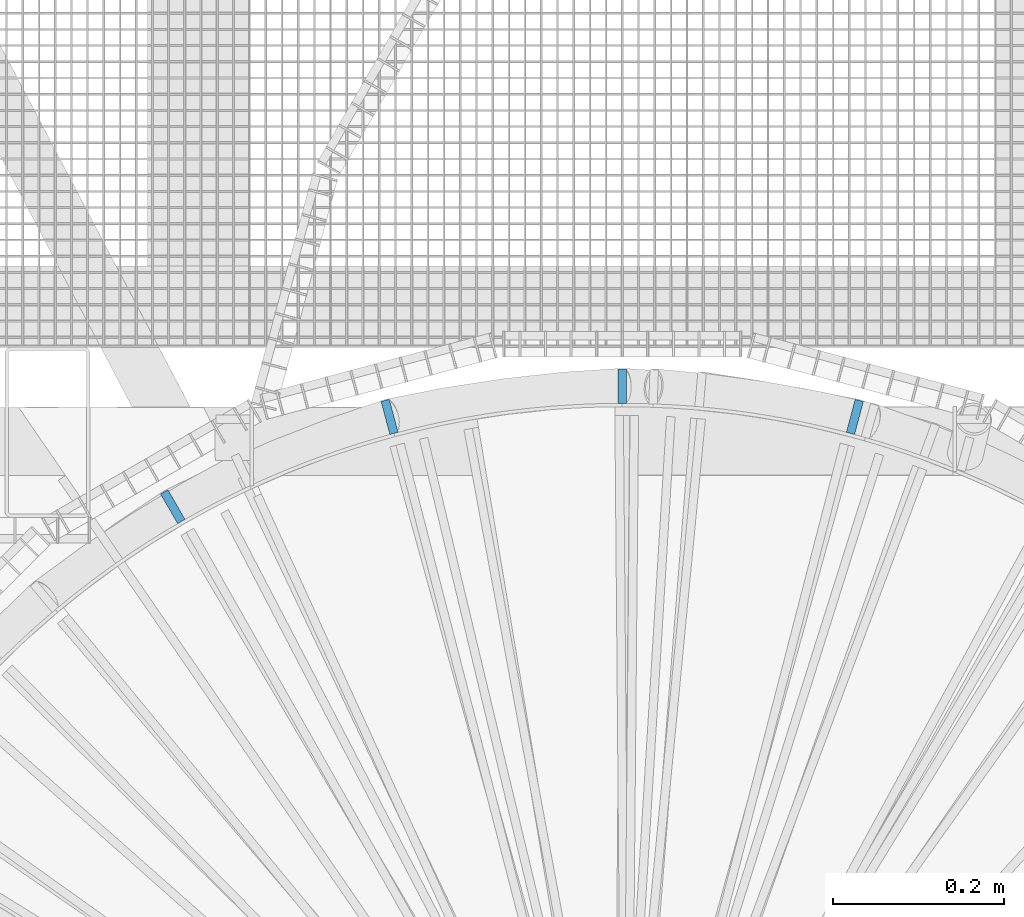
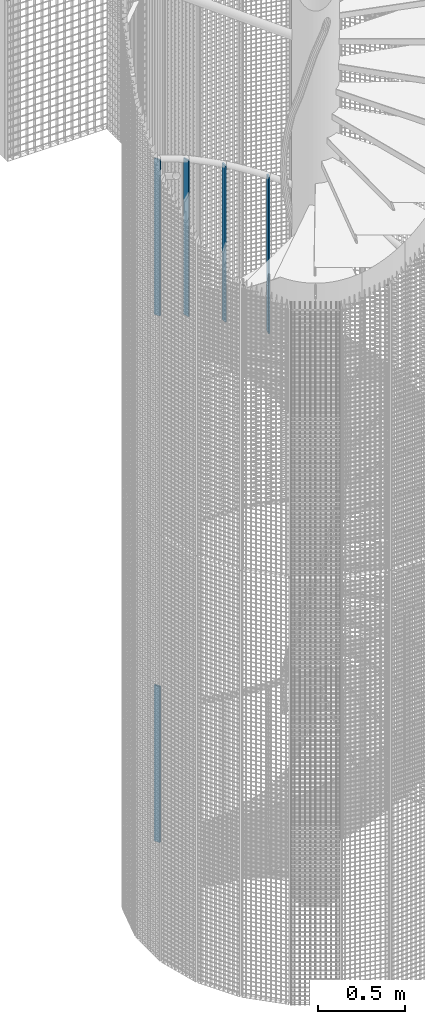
# One storey, part 26 of 1183: 5 columns, 5 elements without a shape of their own.
"""IFC2X3 building model written with IfcOpenShell, lengths in millimetres."""

from ifc_helpers import new_model, si_unit, frame, origin_with_axes, origin_2d_with_axis, place, context, subcontext, project, spatial, rectangle, extrude, material, type_object, element, aggregate, save


model = new_model("IFC2X3")

# Units and contexts
model_context = context("Model", 3, precision=1e-05, world=origin_with_axes())
body_context = subcontext(model_context, "Body", "Model", "MODEL_VIEW")
ifc_project = project(units=[si_unit("LENGTHUNIT", "METRE", prefix="MILLI"), si_unit("AREAUNIT", "SQUARE_METRE"), si_unit("VOLUMEUNIT", "CUBIC_METRE"), si_unit("MASSUNIT", "GRAM", prefix="KILO"), si_unit("TIMEUNIT", "SECOND"), si_unit("PLANEANGLEUNIT", "RADIAN"), si_unit("SOLIDANGLEUNIT", "STERADIAN"), si_unit("THERMODYNAMICTEMPERATUREUNIT", "DEGREE_CELSIUS"), si_unit("LUMINOUSINTENSITYUNIT", "LUMEN")], contexts=[model_context])

# Site, building, storey
site_placement = place(None, origin_with_axes())
site = spatial("IfcSite", under=ifc_project, at=site_placement, Name="Undefined", CompositionType="ELEMENT")
building_placement = place(site_placement, origin_with_axes())
building = spatial("IfcBuilding", under=site, at=building_placement, Name="Undefined", CompositionType="ELEMENT")
storey_placement = place(building_placement, origin_with_axes())
storey = spatial("IfcBuildingStorey", under=building, at=storey_placement, Name="Undefined", CompositionType="ELEMENT", Elevation=0.0)

# Assembly, column
assembly_1_placement = place(storey_placement, origin_with_axes())
assembly_1 = element("IfcElementAssembly", 1, at=assembly_1_placement, inside=storey, Name="MONTANT", AssemblyPlace="NOTDEFINED", PredefinedType="NOTDEFINED")
ifc_material = material(Name="STEEL/S235JR")
column_type = type_object("IfcColumnType", Name="PL10*40", PredefinedType="NOTDEFINED")
column_1_placement = place(assembly_1_placement, frame((272.795273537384, 1018.08582090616, 3244.92), z_axis=(0.0, 0.0, 1.0), x_axis=(-0.258819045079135, -0.965925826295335, 0.0)))
column_1 = element("IfcColumn", 2, at=column_1_placement, type_object=column_type, material=ifc_material, Name="MONTANT", context=body_context, shape_type="SweptSolid", body=[
    extrude(rectangle(XDim=10.0, YDim=40.0, at=origin_2d_with_axis()), frame((0.0, 0.0, 1100.0), z_axis=(0.0, 0.0, -1.0), x_axis=(0.0, 1.0, 0.0)), (0.0, 0.0, 1.0), 1100.0),
])
aggregate(assembly_1, [column_1])

assembly_2_placement = place(storey_placement, origin_with_axes())
assembly_2 = element("IfcElementAssembly", 3, at=assembly_2_placement, inside=storey, Name="MONTANT", AssemblyPlace="NOTDEFINED", PredefinedType="NOTDEFINED")
column_2_placement = place(assembly_2_placement, frame((-272.795273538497, 1018.08582091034, 3553.96), z_axis=(0.0, 0.0, 1.0), x_axis=(0.258819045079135, -0.965925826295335, 0.0)))
column_2 = element("IfcColumn", 4, at=column_2_placement, type_object=column_type, material=ifc_material, Name="MONTANT", context=body_context, shape_type="SweptSolid", body=[
    extrude(rectangle(XDim=10.0, YDim=40.0, at=origin_2d_with_axis()), frame((0.0, 0.0, 1100.0), z_axis=(0.0, 0.0, -1.0), x_axis=(0.0, 1.0, 0.0)), (0.0, 0.0, 1.0), 1100.0),
])
aggregate(assembly_2, [column_2])

assembly_3_placement = place(storey_placement, origin_with_axes())
assembly_3 = element("IfcElementAssembly", 5, at=assembly_3_placement, inside=storey, Name="MONTANT", AssemblyPlace="NOTDEFINED", PredefinedType="NOTDEFINED")
column_3_placement = place(assembly_3_placement, frame((2.72848410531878e-12, 1054.00000000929, 3399.44), z_axis=(0.0, 0.0, 1.0), x_axis=(0.0, -1.0, 0.0)))
column_3 = element("IfcColumn", 6, at=column_3_placement, type_object=column_type, material=ifc_material, Name="MONTANT", context=body_context, shape_type="SweptSolid", body=[
    extrude(rectangle(XDim=10.0, YDim=40.0, at=origin_2d_with_axis()), frame((0.0, 0.0, 1100.0), z_axis=(0.0, 0.0, -1.0), x_axis=(0.0, 1.0, 0.0)), (0.0, 0.0, 1.0), 1100.0),
])
aggregate(assembly_3, [column_3])

assembly_4_placement = place(storey_placement, origin_with_axes())
assembly_4 = element("IfcElementAssembly", 7, at=assembly_4_placement, inside=storey, Name="MONTANT", AssemblyPlace="NOTDEFINED", PredefinedType="NOTDEFINED")
column_4_placement = place(assembly_4_placement, frame((-527.000000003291, 912.790775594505, 3708.48), z_axis=(0.0, 0.0, 1.0), x_axis=(0.499999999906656, -0.866025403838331, 0.0)))
column_4 = element("IfcColumn", 8, at=column_4_placement, type_object=column_type, material=ifc_material, Name="MONTANT", context=body_context, shape_type="SweptSolid", body=[
    extrude(rectangle(XDim=10.0, YDim=40.0, at=origin_2d_with_axis()), frame((0.0, 0.0, 1100.0), z_axis=(0.0, 0.0, -1.0), x_axis=(0.0, 1.0, 0.0)), (0.0, 0.0, 1.0), 1100.0),
])
aggregate(assembly_4, [column_4])

assembly_5_placement = place(storey_placement, origin_with_axes())
assembly_5 = element("IfcElementAssembly", 9, at=assembly_5_placement, inside=storey, Name="MONTANT", AssemblyPlace="NOTDEFINED", PredefinedType="NOTDEFINED")
column_5_placement = place(assembly_5_placement, frame((-527.000000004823, 912.790775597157, 0.0), z_axis=(0.0, 0.0, 1.0), x_axis=(0.499999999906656, -0.866025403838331, 0.0)))
column_5 = element("IfcColumn", 10, at=column_5_placement, type_object=column_type, material=ifc_material, Name="MONTANT", context=body_context, shape_type="SweptSolid", body=[
    extrude(rectangle(XDim=10.0, YDim=40.0, at=origin_2d_with_axis()), frame((0.0, 0.0, 1100.0), z_axis=(0.0, 0.0, -1.0), x_axis=(0.0, 1.0, 0.0)), (0.0, 0.0, 1.0), 1100.0),
])
aggregate(assembly_5, [column_5])

save(model, "model.ifc")
